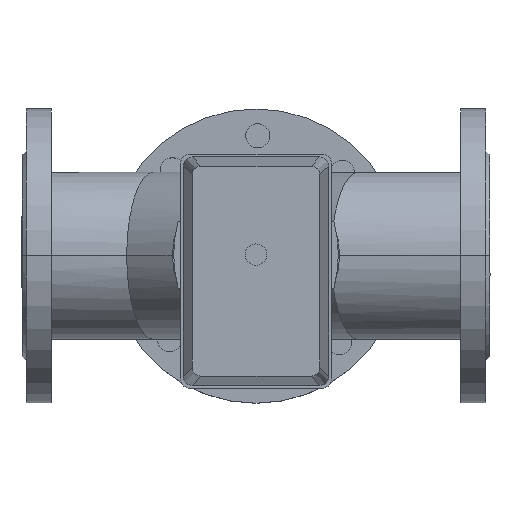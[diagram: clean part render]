
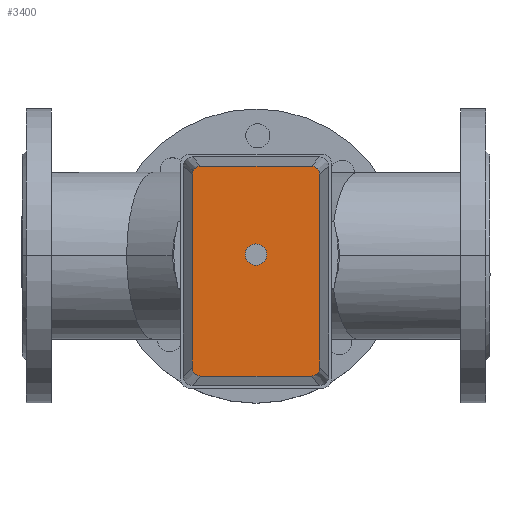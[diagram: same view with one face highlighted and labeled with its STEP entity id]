
A CAD part, top view. The second image highlights one B-rep face of the part: STEP entity #3400.
In plain terms, the highlighted planar face has unit normal (0, 0, 1).
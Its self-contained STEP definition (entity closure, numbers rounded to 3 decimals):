
#307=LINE('',#5787,#512);
#308=LINE('',#5791,#513);
#309=LINE('',#5795,#514);
#310=LINE('',#5799,#515);
#512=VECTOR('',#4750,304.8);
#513=VECTOR('',#4753,304.8);
#514=VECTOR('',#4756,304.8);
#515=VECTOR('',#4759,304.8);
#864=FACE_OUTER_BOUND('',#1101,.T.);
#1101=EDGE_LOOP('',(#2765,#2766,#2767,#2768,#2769,#2770,#2771,#2772));
#1326=CIRCLE('',#3802,6.);
#1327=CIRCLE('',#3803,6.);
#1328=CIRCLE('',#3804,6.);
#1329=CIRCLE('',#3805,6.);
#1604=VERTEX_POINT('',#5785);
#1605=VERTEX_POINT('',#5786);
#1606=VERTEX_POINT('',#5788);
#1607=VERTEX_POINT('',#5790);
#1608=VERTEX_POINT('',#5792);
#1609=VERTEX_POINT('',#5794);
#1610=VERTEX_POINT('',#5796);
#1611=VERTEX_POINT('',#5798);
#2003=EDGE_CURVE('',#1604,#1605,#307,.T.);
#2004=EDGE_CURVE('',#1605,#1606,#1326,.T.);
#2005=EDGE_CURVE('',#1606,#1607,#308,.T.);
#2006=EDGE_CURVE('',#1607,#1608,#1327,.T.);
#2007=EDGE_CURVE('',#1608,#1609,#309,.T.);
#2008=EDGE_CURVE('',#1609,#1610,#1328,.T.);
#2009=EDGE_CURVE('',#1610,#1611,#310,.T.);
#2010=EDGE_CURVE('',#1611,#1604,#1329,.T.);
#2765=ORIENTED_EDGE('',*,*,#2003,.T.);
#2766=ORIENTED_EDGE('',*,*,#2004,.T.);
#2767=ORIENTED_EDGE('',*,*,#2005,.T.);
#2768=ORIENTED_EDGE('',*,*,#2006,.T.);
#2769=ORIENTED_EDGE('',*,*,#2007,.T.);
#2770=ORIENTED_EDGE('',*,*,#2008,.T.);
#2771=ORIENTED_EDGE('',*,*,#2009,.T.);
#2772=ORIENTED_EDGE('',*,*,#2010,.T.);
#3036=PLANE('',#3801);
#3400=ADVANCED_FACE('',(#864),#3036,.T.);
#3801=AXIS2_PLACEMENT_3D('',#5784,#4748,#4749);
#3802=AXIS2_PLACEMENT_3D('',#5789,#4751,#4752);
#3803=AXIS2_PLACEMENT_3D('',#5793,#4754,#4755);
#3804=AXIS2_PLACEMENT_3D('',#5797,#4757,#4758);
#3805=AXIS2_PLACEMENT_3D('',#5800,#4760,#4761);
#4748=DIRECTION('center_axis',(0.,0.,1.));
#4749=DIRECTION('ref_axis',(0.,-1.,0.));
#4750=DIRECTION('',(0.,-1.,0.));
#4751=DIRECTION('center_axis',(0.,0.,1.));
#4752=DIRECTION('ref_axis',(1.,0.,0.));
#4753=DIRECTION('',(1.,0.,0.));
#4754=DIRECTION('center_axis',(0.,0.,1.));
#4755=DIRECTION('ref_axis',(1.,0.,0.));
#4756=DIRECTION('',(0.,1.,0.));
#4757=DIRECTION('center_axis',(0.,0.,1.));
#4758=DIRECTION('ref_axis',(1.,0.,0.));
#4759=DIRECTION('',(-1.,0.,0.));
#4760=DIRECTION('center_axis',(0.,0.,1.));
#4761=DIRECTION('ref_axis',(1.,0.,0.));
#5784=CARTESIAN_POINT('Origin',(-12.5,0.002,458.));
#5785=CARTESIAN_POINT('',(-91.,41.502,458.));
#5786=CARTESIAN_POINT('',(-91.,-41.498,458.));
#5787=CARTESIAN_POINT('',(-91.,-41.498,458.));
#5788=CARTESIAN_POINT('',(-85.,-47.498,458.));
#5789=CARTESIAN_POINT('Origin',(-85.,-41.498,458.));
#5790=CARTESIAN_POINT('',(60.,-47.498,458.));
#5791=CARTESIAN_POINT('',(60.,-47.498,458.));
#5792=CARTESIAN_POINT('',(66.,-41.498,458.));
#5793=CARTESIAN_POINT('Origin',(60.,-41.498,458.));
#5794=CARTESIAN_POINT('',(66.,41.502,458.));
#5795=CARTESIAN_POINT('',(66.,41.502,458.));
#5796=CARTESIAN_POINT('',(60.,47.502,458.));
#5797=CARTESIAN_POINT('Origin',(60.,41.502,458.));
#5798=CARTESIAN_POINT('',(-85.,47.502,458.));
#5799=CARTESIAN_POINT('',(-85.,47.502,458.));
#5800=CARTESIAN_POINT('Origin',(-85.,41.502,458.));
